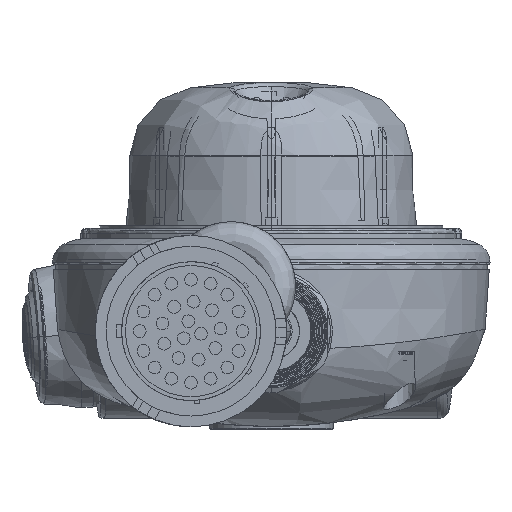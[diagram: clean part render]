
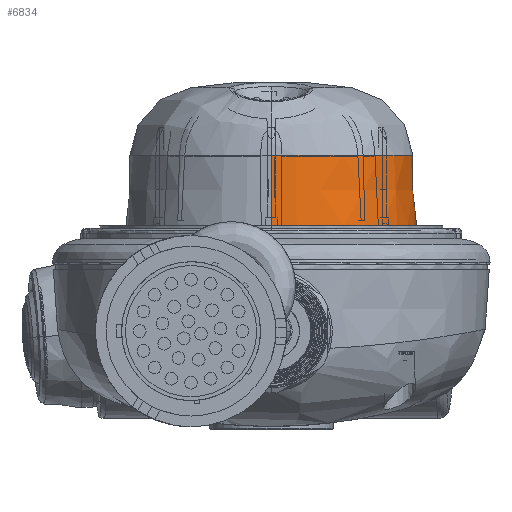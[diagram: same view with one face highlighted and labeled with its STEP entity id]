
A CAD part, front view. The second image highlights one B-rep face of the part: STEP entity #6834.
In plain terms, the highlighted conical face has half-angle 3 degrees and reference radius 28.25 mm.
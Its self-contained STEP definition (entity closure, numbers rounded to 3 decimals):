
#6834=ADVANCED_FACE('',(#16700),#16701,.T.);
#16700=FACE_OUTER_BOUND('',#38934,.T.);
#16701=CONICAL_SURFACE('',#38935,28.25,0.052);
#38934=EDGE_LOOP('',(#101865,#101866,#101867,#101868));
#38935=AXIS2_PLACEMENT_3D('',#101869,#101870,#101871);
#101865=ORIENTED_EDGE('',*,*,#134857,.F.);
#101866=ORIENTED_EDGE('',*,*,#134858,.T.);
#101867=ORIENTED_EDGE('',*,*,#134859,.T.);
#101868=ORIENTED_EDGE('',*,*,#134860,.F.);
#101869=CARTESIAN_POINT('',(0.,0.,6.5));
#101870=DIRECTION('',(0.,0.,-1.0));
#101871=DIRECTION('',(0.0,1.0,0.));
#134857=EDGE_CURVE('',#154023,#154024,#154025,.T.);
#134858=EDGE_CURVE('',#154023,#154026,#154027,.T.);
#134859=EDGE_CURVE('',#154026,#154028,#154029,.T.);
#134860=EDGE_CURVE('',#154024,#154028,#154030,.T.);
#154023=VERTEX_POINT('',#189198);
#154024=VERTEX_POINT('',#189199);
#154025=CIRCLE('',#189200,27.533);
#154026=VERTEX_POINT('',#189201);
#154027=LINE('',#189202,#189203);
#154028=VERTEX_POINT('',#189204);
#154029=CIRCLE('',#189205,28.25);
#154030=LINE('',#189206,#189207);
#189198=CARTESIAN_POINT('',(0.,-27.533,20.19));
#189199=CARTESIAN_POINT('',(0.,27.533,20.19));
#189200=AXIS2_PLACEMENT_3D('',#222831,#222832,#222833);
#189201=CARTESIAN_POINT('',(0.,-28.25,6.5));
#189202=CARTESIAN_POINT('',(0.,-28.25,6.5));
#189203=VECTOR('',#222834,1000.0);
#189204=CARTESIAN_POINT('',(0.,28.25,6.5));
#189205=AXIS2_PLACEMENT_3D('',#222835,#222836,#222837);
#189206=CARTESIAN_POINT('',(0.,28.25,6.5));
#189207=VECTOR('',#222838,1000.0);
#222831=CARTESIAN_POINT('',(0.,0.,20.19));
#222832=DIRECTION('',(0.,0.,1.0));
#222833=DIRECTION('',(0.,1.0,0.));
#222834=DIRECTION('',(0.,-0.052,-0.999));
#222835=CARTESIAN_POINT('',(0.,0.,6.5));
#222836=DIRECTION('',(0.,0.,1.0));
#222837=DIRECTION('',(0.0,1.0,0.));
#222838=DIRECTION('',(0.,0.052,-0.999));
